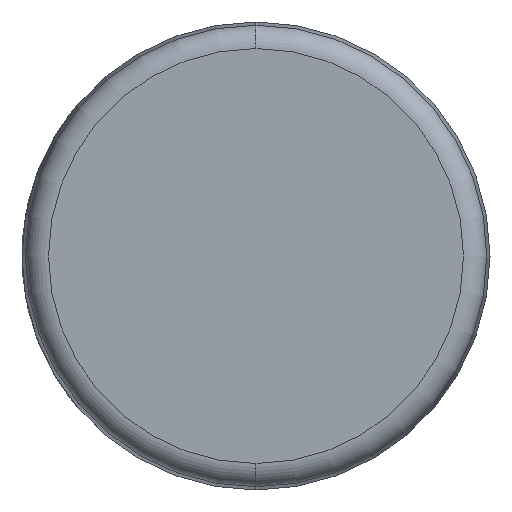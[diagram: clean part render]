
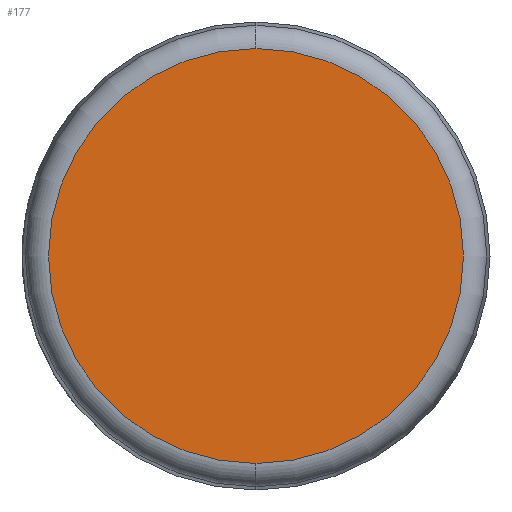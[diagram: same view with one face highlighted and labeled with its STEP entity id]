
A CAD part, left-side view. The second image highlights one B-rep face of the part: STEP entity #177.
In plain terms, the highlighted planar face has unit normal (-1, 0, 0).
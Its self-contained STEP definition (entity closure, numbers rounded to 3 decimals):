
#65 = DIRECTION ( 'NONE',  ( -1., 0., 0. ) ) ;
#117 = DIRECTION ( 'NONE',  ( 0., 0., -1. ) ) ;
#126 = CARTESIAN_POINT ( 'NONE',  ( 0., 0., -17.73 ) ) ;
#177 = ADVANCED_FACE ( 'NONE', ( #714 ), #716, .F. ) ;
#197 = AXIS2_PLACEMENT_3D ( 'NONE', #724, #675, #673 ) ;
#253 = AXIS2_PLACEMENT_3D ( 'NONE', #412, #65, #117 ) ;
#294 = CARTESIAN_POINT ( 'NONE',  ( 0., 0., 17.73 ) ) ;
#339 = CIRCLE ( 'NONE', #253, 17.73 ) ;
#358 = EDGE_CURVE ( 'NONE', #452, #528, #647, .T. ) ;
#407 = ORIENTED_EDGE ( 'NONE', *, *, #486, .T. ) ;
#412 = CARTESIAN_POINT ( 'NONE',  ( 0., 0., 0. ) ) ;
#452 = VERTEX_POINT ( 'NONE', #126 ) ;
#486 = EDGE_CURVE ( 'NONE', #528, #452, #339, .T. ) ;
#528 = VERTEX_POINT ( 'NONE', #294 ) ;
#532 = EDGE_LOOP ( 'NONE', ( #717, #407 ) ) ;
#647 = CIRCLE ( 'NONE', #689, 17.73 ) ;
#660 = CARTESIAN_POINT ( 'NONE',  ( 0., 0., 0. ) ) ;
#673 = DIRECTION ( 'NONE',  ( 0., 0., -1. ) ) ;
#675 = DIRECTION ( 'NONE',  ( 1., 0., 0. ) ) ;
#689 = AXIS2_PLACEMENT_3D ( 'NONE', #660, #719, #721 ) ;
#714 = FACE_OUTER_BOUND ( 'NONE', #532, .T. ) ;
#716 = PLANE ( 'NONE',  #197 ) ;
#717 = ORIENTED_EDGE ( 'NONE', *, *, #358, .T. ) ;
#719 = DIRECTION ( 'NONE',  ( -1., 0., 0. ) ) ;
#721 = DIRECTION ( 'NONE',  ( 0., 0., -1. ) ) ;
#724 = CARTESIAN_POINT ( 'NONE',  ( 0., 0., 0. ) ) ;
